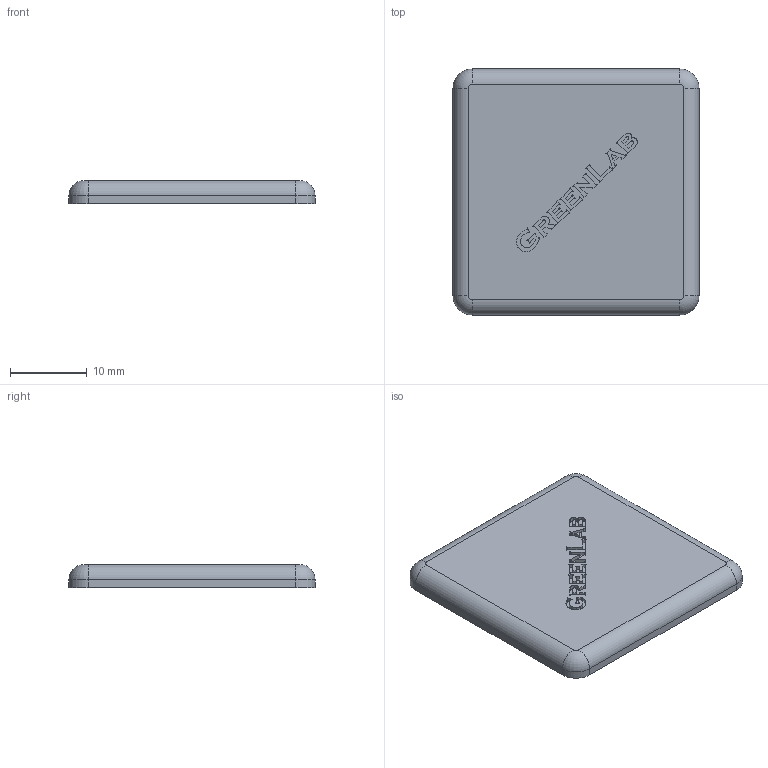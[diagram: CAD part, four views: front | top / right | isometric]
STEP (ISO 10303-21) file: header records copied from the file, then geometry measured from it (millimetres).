
FILE_DESCRIPTION (( 'STEP AP214' ), '1' );
FILE_NAME ('1.1057 Päätysuoja 32X32 musta.STEP', '2025-09-03T08:59:28', ( '' ), ( '' ), 'SwSTEP 2.0', 'SolidWorks 2025', '' );
FILE_SCHEMA (( 'AUTOMOTIVE_DESIGN' ));
Length unit declared in the file: millimetre
Products named in the file (1): 1.1057 Päätysuoja 32X32 musta
Bounding box: 32 x 32 x 3 mm (x, y, z)
Volume: 2941.2 mm3; surface area: 2354.3 mm2
Topology: 1 solids, 1 shells, 240 faces, 670 edges, 444 vertices
Faces by surface type: plane 143, bspline 85, cylinder 8, torus 4
Entity records: 10287 total; most frequent: CARTESIAN_POINT 4664, ORIENTED_EDGE 1340, DIRECTION 832, EDGE_CURVE 670, VECTOR 480, LINE 480, VERTEX_POINT 444, EDGE_LOOP 252
